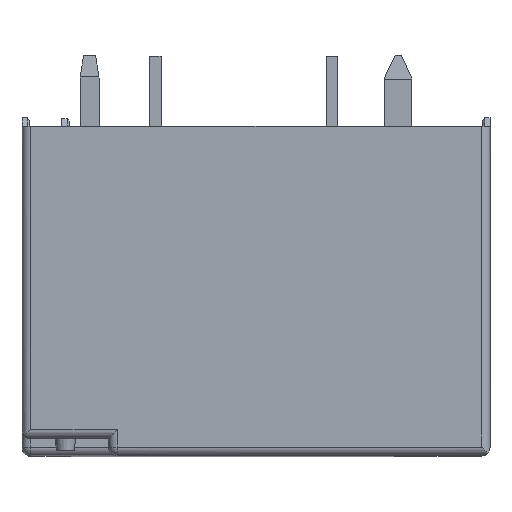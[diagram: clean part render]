
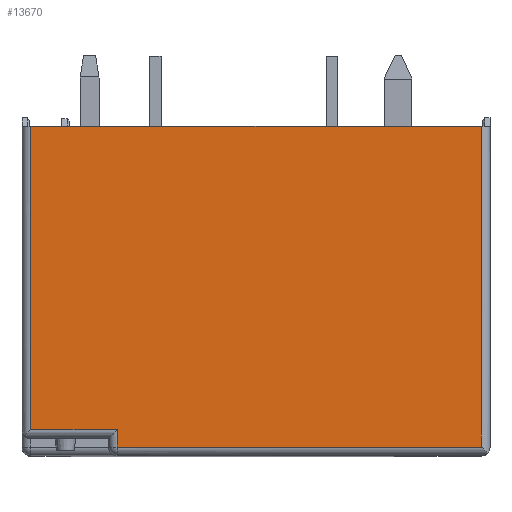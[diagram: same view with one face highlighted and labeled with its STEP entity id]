
A CAD part, top view. The second image highlights one B-rep face of the part: STEP entity #13670.
In plain terms, the highlighted planar face has unit normal (0, 0, 1).
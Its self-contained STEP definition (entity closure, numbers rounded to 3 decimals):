
#12682 = VERTEX_POINT('',#12683);
#12683 = CARTESIAN_POINT('',(-12.3,9.5,24.35));
#12690 = EDGE_CURVE('',#12682,#12691,#12693,.T.);
#12691 = VERTEX_POINT('',#12692);
#12692 = CARTESIAN_POINT('',(13.7,9.5,24.35));
#12693 = LINE('',#12694,#12695);
#12694 = CARTESIAN_POINT('',(-12.8,9.5,24.35));
#12695 = VECTOR('',#12696,1.);
#12696 = DIRECTION('',(1.,0.,0.));
#13670 = ADVANCED_FACE('',(#13671),#13712,.F.);
#13671 = FACE_BOUND('',#13672,.T.);
#13672 = EDGE_LOOP('',(#13673,#13674,#13682,#13690,#13698,#13706));
#13673 = ORIENTED_EDGE('',*,*,#12690,.F.);
#13674 = ORIENTED_EDGE('',*,*,#13675,.T.);
#13675 = EDGE_CURVE('',#12682,#13676,#13678,.T.);
#13676 = VERTEX_POINT('',#13677);
#13677 = CARTESIAN_POINT('',(-12.3,-8.,24.35));
#13678 = LINE('',#13679,#13680);
#13679 = CARTESIAN_POINT('',(-12.3,9.5,24.35));
#13680 = VECTOR('',#13681,1.);
#13681 = DIRECTION('',(0.,-1.,0.));
#13682 = ORIENTED_EDGE('',*,*,#13683,.T.);
#13683 = EDGE_CURVE('',#13676,#13684,#13686,.T.);
#13684 = VERTEX_POINT('',#13685);
#13685 = CARTESIAN_POINT('',(-7.3,-8.,24.35));
#13686 = LINE('',#13687,#13688);
#13687 = CARTESIAN_POINT('',(-12.8,-8.,24.35));
#13688 = VECTOR('',#13689,1.);
#13689 = DIRECTION('',(1.,0.,0.));
#13690 = ORIENTED_EDGE('',*,*,#13691,.T.);
#13691 = EDGE_CURVE('',#13684,#13692,#13694,.T.);
#13692 = VERTEX_POINT('',#13693);
#13693 = CARTESIAN_POINT('',(-7.3,-9.,24.35));
#13694 = LINE('',#13695,#13696);
#13695 = CARTESIAN_POINT('',(-7.3,-9.5,24.35));
#13696 = VECTOR('',#13697,1.);
#13697 = DIRECTION('',(0.,-1.,0.));
#13698 = ORIENTED_EDGE('',*,*,#13699,.T.);
#13699 = EDGE_CURVE('',#13692,#13700,#13702,.T.);
#13700 = VERTEX_POINT('',#13701);
#13701 = CARTESIAN_POINT('',(13.7,-9.,24.35));
#13702 = LINE('',#13703,#13704);
#13703 = CARTESIAN_POINT('',(-12.8,-9.,24.35));
#13704 = VECTOR('',#13705,1.);
#13705 = DIRECTION('',(1.,0.,0.));
#13706 = ORIENTED_EDGE('',*,*,#13707,.T.);
#13707 = EDGE_CURVE('',#13700,#12691,#13708,.T.);
#13708 = LINE('',#13709,#13710);
#13709 = CARTESIAN_POINT('',(13.7,9.5,24.35));
#13710 = VECTOR('',#13711,1.);
#13711 = DIRECTION('',(0.,1.,0.));
#13712 = PLANE('',#13713);
#13713 = AXIS2_PLACEMENT_3D('',#13714,#13715,#13716);
#13714 = CARTESIAN_POINT('',(-12.8,9.5,24.35));
#13715 = DIRECTION('',(0.,0.,-1.));
#13716 = DIRECTION('',(0.,-1.,0.));
